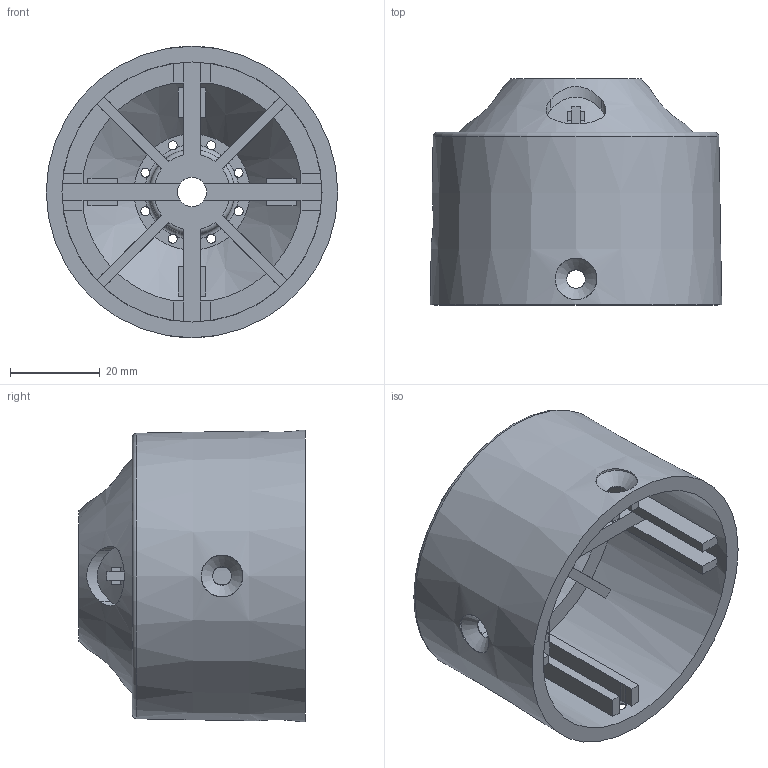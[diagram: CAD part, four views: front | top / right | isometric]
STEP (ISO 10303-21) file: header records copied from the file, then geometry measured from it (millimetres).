
FILE_DESCRIPTION( ( 'STEP AP203' ), ' ' );
FILE_NAME( 'p:/temp/worker_12/3972_3860/app_90_02015083108233833527512192d056f_000000_00_00_000000/format_2/E17327.stp', '2015-08-31T06:23:40', ( '' ), ( '' ), ' ', 'PARTsolutions', ' ' );
FILE_SCHEMA( ( 'CONFIG_CONTROL_DESIGN' ) );
Length unit declared in the file: millimetre
Products named in the file (1): _E17327
Bounding box: 65 x 50.4 x 65 mm (x, y, z)
Volume: 45433.3 mm3; surface area: 29879.7 mm2
Topology: 1 solids, 1 shells, 248 faces, 727 edges, 478 vertices
Faces by surface type: plane 170, cylinder 44, cone 17, torus 17
Full cylindrical faces by diameter (mm): 2 x8, 4.2 x3, 6.5 x1, 9.3 x3, 12.7 x1, 58 x1
Entity records: 9140 total; most frequent: CARTESIAN_POINT 2936, ORIENTED_EDGE 1364, DIRECTION 1132, EDGE_CURVE 682, VERTEX_POINT 458, AXIS2_PLACEMENT_3D 378, LINE 376, VECTOR 376
